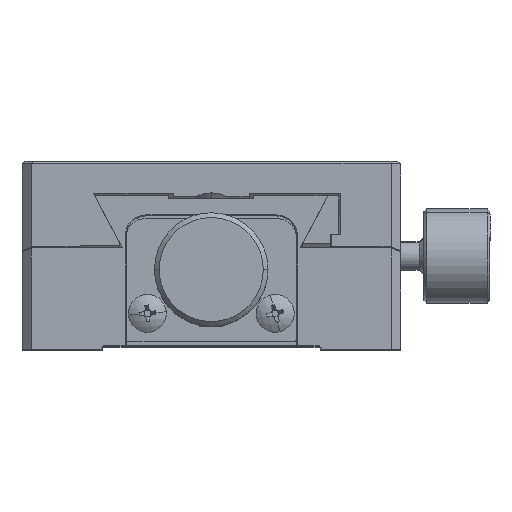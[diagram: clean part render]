
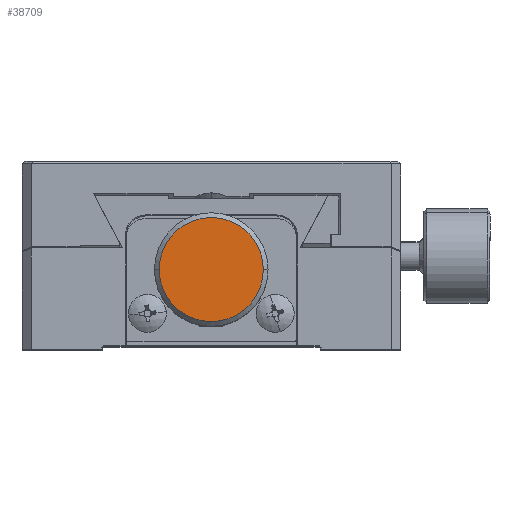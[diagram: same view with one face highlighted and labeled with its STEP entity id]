
A CAD part, top view. The second image highlights one B-rep face of the part: STEP entity #38709.
In plain terms, the highlighted planar face has unit normal (0, 0, 1).
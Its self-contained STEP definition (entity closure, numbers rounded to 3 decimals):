
#2237 = EDGE_CURVE ( 'NONE', #27550, #2984, #18920, .T. ) ;
#2984 = VERTEX_POINT ( 'NONE', #44490 ) ;
#7511 = DIRECTION ( 'NONE',  ( 0., 0., 1. ) ) ;
#8216 = DIRECTION ( 'NONE',  ( 1., 0., 0. ) ) ;
#11066 = EDGE_LOOP ( 'NONE', ( #11384, #22873 ) ) ;
#11384 = ORIENTED_EDGE ( 'NONE', *, *, #43417, .T. ) ;
#13053 = DIRECTION ( 'NONE',  ( 0., 0., -1. ) ) ;
#13931 = AXIS2_PLACEMENT_3D ( 'NONE', #32405, #13053, #40209 ) ;
#18920 = CIRCLE ( 'NONE', #45475, 5.5 ) ;
#20593 = PLANE ( 'NONE',  #13931 ) ;
#22873 = ORIENTED_EDGE ( 'NONE', *, *, #2237, .T. ) ;
#23647 = AXIS2_PLACEMENT_3D ( 'NONE', #44302, #7511, #28934 ) ;
#27550 = VERTEX_POINT ( 'NONE', #38654 ) ;
#28934 = DIRECTION ( 'NONE',  ( 1., 0., 0. ) ) ;
#32405 = CARTESIAN_POINT ( 'NONE',  ( 40.218, 40.104, 78.833 ) ) ;
#38654 = CARTESIAN_POINT ( 'NONE',  ( 34.718, 40.104, 78.833 ) ) ;
#38709 = ADVANCED_FACE ( 'NONE', ( #47504 ), #20593, .F. ) ;
#38898 = DIRECTION ( 'NONE',  ( 0., 0., 1. ) ) ;
#38914 = CIRCLE ( 'NONE', #23647, 5.5 ) ;
#40209 = DIRECTION ( 'NONE',  ( 1., 0., 0. ) ) ;
#42674 = CARTESIAN_POINT ( 'NONE',  ( 40.218, 40.104, 78.833 ) ) ;
#43417 = EDGE_CURVE ( 'NONE', #2984, #27550, #38914, .T. ) ;
#44302 = CARTESIAN_POINT ( 'NONE',  ( 40.218, 40.104, 78.833 ) ) ;
#44490 = CARTESIAN_POINT ( 'NONE',  ( 45.718, 40.104, 78.833 ) ) ;
#45475 = AXIS2_PLACEMENT_3D ( 'NONE', #42674, #38898, #8216 ) ;
#47504 = FACE_OUTER_BOUND ( 'NONE', #11066, .T. ) ;
